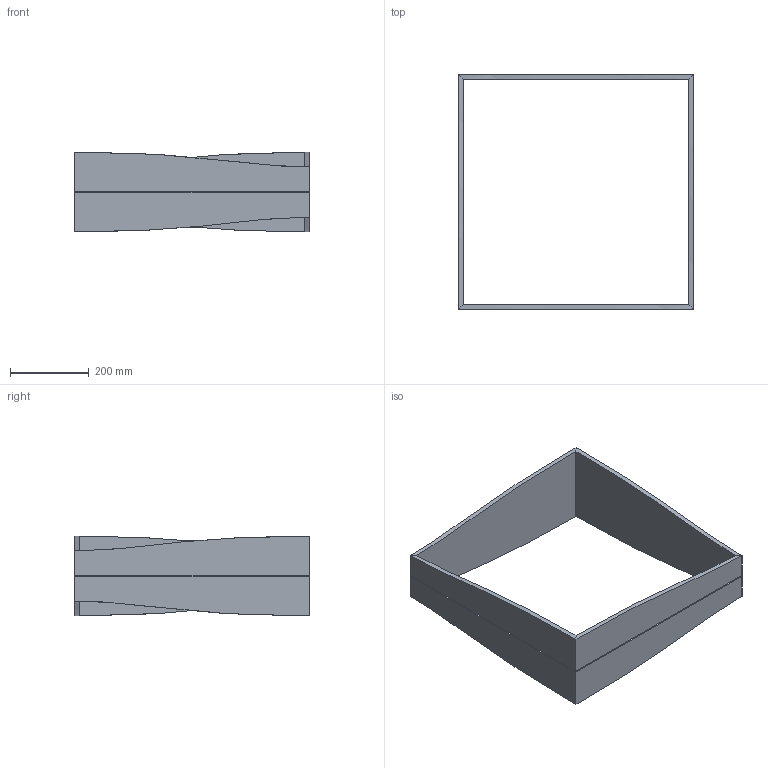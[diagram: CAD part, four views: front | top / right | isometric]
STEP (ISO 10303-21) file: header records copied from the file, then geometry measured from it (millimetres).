
FILE_DESCRIPTION(/* description */ (''),/* implementation_level */ '2;1');
FILE_NAME(/* name */ 'Profile_9',/* time_stamp */ '2026-07-21T14:50:11-05:00',/* author */ (''),/* organization */ (''),/* preprocessor_version */ 'ST-DEVELOPER v19.2',/* originating_system */ 'Rhino 8.32',/* authorisation */ '');
FILE_SCHEMA (('CONFIG_CONTROL_DESIGN'));
Length unit declared in the file: inch
Products named in the file (1): Document
Bounding box: 596.9 x 596.9 x 203.2 mm (x, y, z)
Volume: 4781214.5 mm3; surface area: 908683.2 mm2
Topology: 4 solids, 4 shells, 40 faces, 96 edges, 64 vertices
Faces by surface type: plane 32, bspline 8
Entity records: 1190 total; most frequent: CARTESIAN_POINT 418, ORIENTED_EDGE 192, EDGE_CURVE 96, B_SPLINE_CURVE_WITH_KNOTS 96, VERTEX_POINT 64, ADVANCED_FACE 40, FACE_OUTER_BOUND 40, EDGE_LOOP 40
